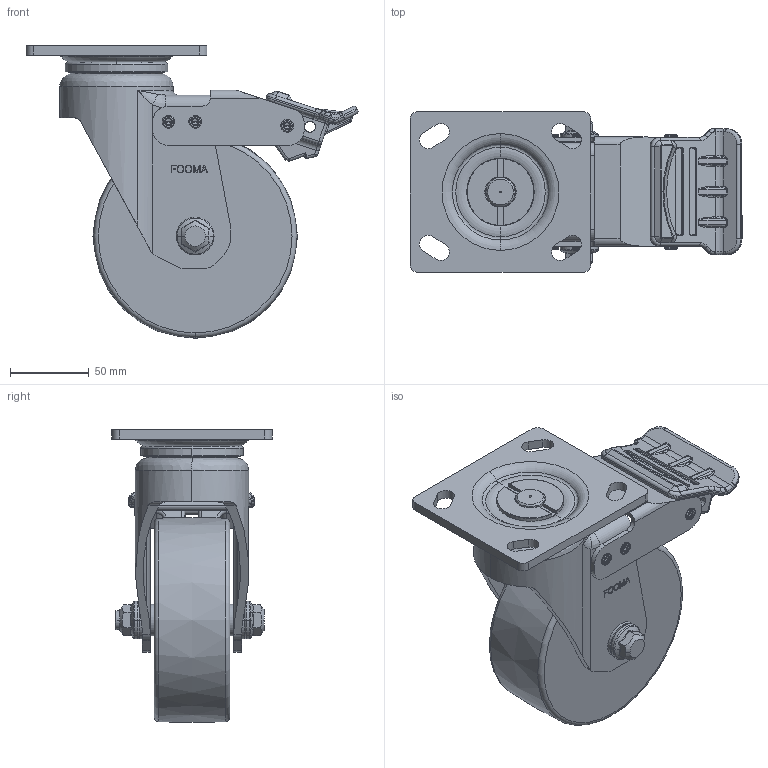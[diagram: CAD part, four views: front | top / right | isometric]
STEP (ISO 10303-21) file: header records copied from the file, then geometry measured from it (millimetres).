
FILE_DESCRIPTION((''),'2;1');
FILE_NAME('GH-130-BSF-W48.stp','2013-12-12T10:15:20',(''),(''),'Mechanical Desktop 2009','Mechanical Desktop 2009',', , ');
FILE_SCHEMA(('CONFIG_CONTROL_DESIGN'));
Length unit declared in the file: millimetre
Products named in the file (2): GH-130-BSF-W48; PLATE
Assembly tree (1 placements, depth 2):
  GH-130-BSF-W48
    PLATE
Bounding box: 210.95 x 102 x 185.95 mm (x, y, z)
Volume: 961082.8 mm3; surface area: 169652.4 mm2
Topology: 10 solids, 10 shells, 1107 faces, 2812 edges, 1729 vertices
Faces by surface type: cylinder 356, bspline 347, plane 257, torus 96, cone 39, sphere 12
Entity records: 42899 total; most frequent: CARTESIAN_POINT 17313, ORIENTED_EDGE 5548, DIRECTION 5058, EDGE_CURVE 2774, AXIS2_PLACEMENT_3D 1997, VERTEX_POINT 1729, EDGE_LOOP 1197, FACE_OUTER_BOUND 1107
